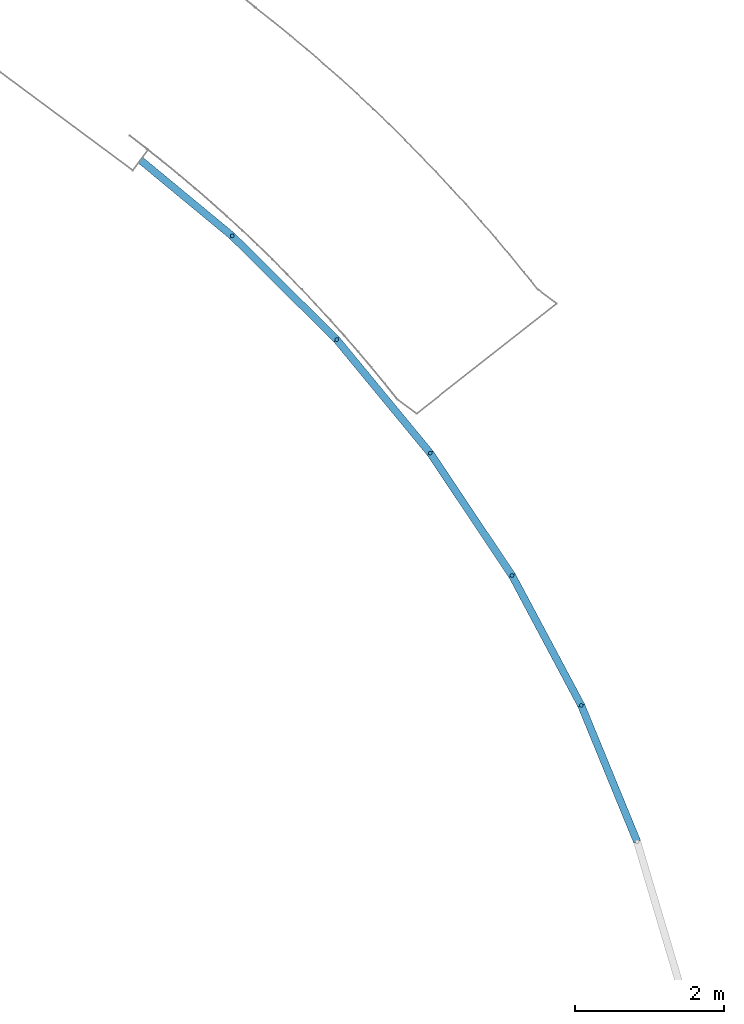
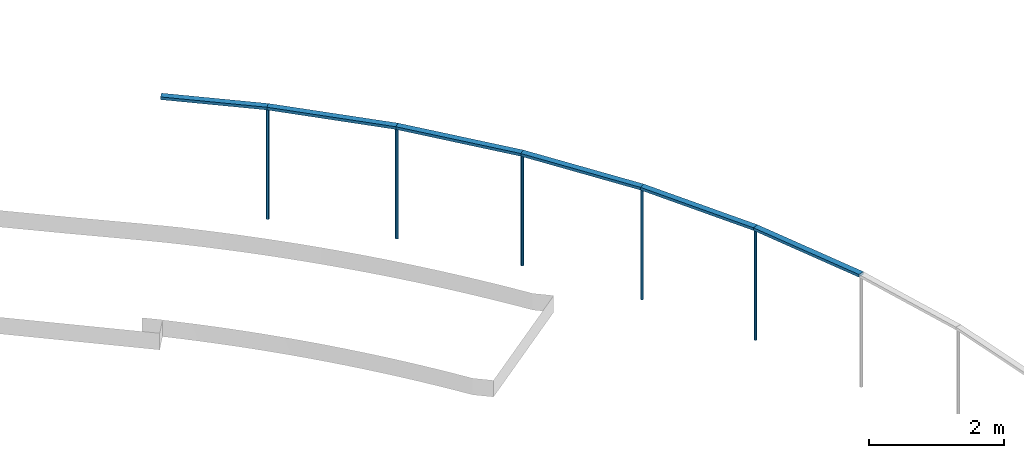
# One storey, part 15 of 33: 11 members, 1 element without a shape of its own.
"""IFC2X3 building model written with IfcOpenShell, lengths in metres."""

import ifcopenshell
import ifcopenshell.guid

model = None  # the IFC model being written
_history = None  # IfcOwnerHistory: only IFC2X3 demands one
_inside = {}  # id of a spatial element -> (the spatial element, [elements in it])
_under = {}  # id of a project, library or spatial element -> (it, [spatial elements below it])
_declared = {}  # id of a project -> (the project, [libraries it declares])
_typed = {}  # id of a type object -> (the type object, [elements of that type])
_made_of = {}  # id of a material, layer set ... -> (it, [elements and type objects made of it])


def new_model(schema):
    """Start an empty IFC model of exactly this schema.

    Asked for "IFC4X3", IfcOpenShell would pick the latest addendum, in which some entities
    have other attributes; the version numbers below select the first issue.
    IFC2X3 requires an IfcOwnerHistory on every rooted entity: one is made here for all.
    """
    global model, _history
    if schema == "IFC4X3":
        model = ifcopenshell.file(schema_version=(4, 3, 0, 0))
    else:
        model = ifcopenshell.file(schema=schema)
    _inside.clear()
    _under.clear()
    _declared.clear()
    _typed.clear()
    _made_of.clear()
    _history = None
    if model.schema == "IFC2X3":
        org = make("IfcOrganization", Name="unknown")
        user = make(
            "IfcPersonAndOrganization",
            ThePerson=make("IfcPerson", FamilyName="unknown"),
            TheOrganization=org,
        )
        app = make(
            "IfcApplication",
            ApplicationDeveloper=org,
            Version="unknown",
            ApplicationFullName="unknown",
            ApplicationIdentifier="unknown",
        )
        _history = make(
            "IfcOwnerHistory",
            OwningUser=user,
            OwningApplication=app,
            ChangeAction="ADDED",
            CreationDate=0,
        )
    return model


def make(cls, **values):
    """One entity of the class cls with the attributes given. An attribute that is None is left unset."""
    return model.create_entity(
        cls, **{name: value for name, value in values.items() if value is not None}
    )


def entity(cls, *values):
    """Any entity or typed value of the class cls, its attributes in the order of the schema. None: left unset."""
    e = model.create_entity(cls)
    for i, value in enumerate(values):
        if value is not None:
            e[i] = value
    return e


def rooted(cls, **values):
    """An entity with a GlobalId (a new one), such as an element, a storey or a relation."""
    return make(cls, GlobalId=ifcopenshell.guid.new(), OwnerHistory=_history, **values)


def si_unit(unit_type, name, prefix=None):
    """IfcSIUnit, for example si_unit("LENGTHUNIT", "METRE", prefix="MILLI")."""
    return make("IfcSIUnit", UnitType=unit_type, Prefix=prefix, Name=name)


def converted_unit(unit_type, name, factor, base, dimensions=None, offset=None):
    """IfcConversionBasedUnit, such as the inch: factor (a typed value) times the base unit."""
    return make(
        "IfcConversionBasedUnit"
        if offset is None
        else "IfcConversionBasedUnitWithOffset",
        ConversionOffset=offset,
        Dimensions=None
        if dimensions is None
        else entity("IfcDimensionalExponents", *dimensions),
        UnitType=unit_type,
        Name=name,
        ConversionFactor=make(
            "IfcMeasureWithUnit", ValueComponent=factor, UnitComponent=base
        ),
    )


def derived_unit(unit_type, elements):
    """IfcDerivedUnit: a product of units, each with its exponent."""
    return make(
        "IfcDerivedUnit",
        Elements=[
            make("IfcDerivedUnitElement", Unit=unit, Exponent=power)
            for unit, power in elements
        ],
        UnitType=unit_type,
    )


def assignment(units):
    """IfcUnitAssignment: the units of a project."""
    return None if units is None else make("IfcUnitAssignment", Units=units)


def point(xyz):
    """IfcCartesianPoint."""
    return None if xyz is None else make("IfcCartesianPoint", Coordinates=xyz)


def direction(xyz):
    """IfcDirection."""
    return None if xyz is None else make("IfcDirection", DirectionRatios=xyz)


def frame(location, z_axis=None, x_axis=None):
    """IfcAxis2Placement3D, a coordinate frame: its origin and axes. An axis left out is left unset."""
    return make(
        "IfcAxis2Placement3D",
        Location=point(location),
        Axis=direction(z_axis),
        RefDirection=direction(x_axis),
    )


def frame_2d(location, x_axis=None):
    """IfcAxis2Placement2D, a coordinate frame in the plane: its origin and x axis."""
    return make(
        "IfcAxis2Placement2D", Location=point(location), RefDirection=direction(x_axis)
    )


def origin():
    """The frame at (0, 0, 0) with its axes left unset."""
    return frame((0.0, 0.0, 0.0))


def origin_2d_with_axis():
    """The frame at (0, 0) in the plane with the x axis (1, 0) written out."""
    return frame_2d((0.0, 0.0), x_axis=(1.0, 0.0))


def place(relative_to, where):
    """IfcLocalPlacement: puts the frame where relative to a parent placement (None: the world)."""
    return make(
        "IfcLocalPlacement", PlacementRelTo=relative_to, RelativePlacement=where
    )


def context(
    kind, dimensions, precision=None, world=None, true_north=None, identifier=None
):
    """IfcGeometricRepresentationContext, for example the 3D "Model" context."""
    return make(
        "IfcGeometricRepresentationContext",
        ContextIdentifier=identifier,
        ContextType=kind,
        CoordinateSpaceDimension=dimensions,
        Precision=precision,
        WorldCoordinateSystem=world,
        TrueNorth=true_north,
    )


def subcontext(parent, identifier, kind, view, scale=None):
    """IfcGeometricRepresentationSubContext, for example "Body" below "Model"."""
    return make(
        "IfcGeometricRepresentationSubContext",
        ContextIdentifier=identifier,
        ContextType=kind,
        ParentContext=parent,
        TargetScale=scale,
        TargetView=view,
    )


def project(units=None, contexts=None):
    """IfcProject with its units and contexts."""
    return rooted(
        "IfcProject",
        Name="project",
        RepresentationContexts=contexts,
        UnitsInContext=assignment(units),
    )


def spatial(cls, under=None, at=None, **own):
    """A site, building, storey or space (cls), placed at a placement, below another one or the project."""
    s = rooted(cls, ObjectPlacement=at, **own)
    if under is not None:
        _under.setdefault(under.id(), (under, []))[1].append(s)
    return s


def profile(cls, at=None, kind="AREA", **sizes):
    """A parametric profile (cls). Its sizes go by their IFC names, for example OverallWidth=200.0."""
    return make(cls, ProfileType=kind, Position=at, **sizes)


def rectangle(**sizes):
    """IfcRectangleProfileDef."""
    return profile("IfcRectangleProfileDef", **sizes)


def circle(**sizes):
    """IfcCircleProfileDef."""
    return profile("IfcCircleProfileDef", **sizes)


def extrude(swept, where, along, depth):
    """IfcExtrudedAreaSolid: the profile swept, set in the frame where, extruded along a direction by depth."""
    return make(
        "IfcExtrudedAreaSolid",
        SweptArea=swept,
        Position=where,
        ExtrudedDirection=direction(along),
        Depth=depth,
    )


def clip(a, b, op="DIFFERENCE"):
    """IfcBooleanClippingResult: the solid a cut by the half space b."""
    return make(
        "IfcBooleanClippingResult", Operator=op, FirstOperand=a, SecondOperand=b
    )


def halfspace(plane, agree):
    """IfcHalfSpaceSolid: all space on one side of the plane z = 0 of the frame plane."""
    return make(
        "IfcHalfSpaceSolid",
        BaseSurface=make("IfcPlane", Position=plane),
        AgreementFlag=agree,
    )


def shape(context_of_items, identifier, shape_type, items):
    """IfcShapeRepresentation: the items that make up one representation, for example the "Body"."""
    return make(
        "IfcShapeRepresentation",
        ContextOfItems=context_of_items,
        RepresentationIdentifier=identifier,
        RepresentationType=shape_type,
        Items=items,
    )


def source(mapping_origin, context_of_items, identifier, shape_type, items):
    """IfcRepresentationMap: a shape defined once, which mapped items show again and again."""
    return make(
        "IfcRepresentationMap",
        MappingOrigin=mapping_origin,
        MappedRepresentation=shape(context_of_items, identifier, shape_type, items),
    )


def transform(
    local_origin,
    x_axis=None,
    y_axis=None,
    z_axis=None,
    scale=None,
    scale2=None,
    scale3=None,
    uniform=True,
):
    """IfcCartesianTransformationOperator3D, or its non-uniform kind. x_axis, y_axis, z_axis: its Axis1, 2, 3."""
    if uniform:
        return make(
            "IfcCartesianTransformationOperator3D",
            Axis1=direction(x_axis),
            Axis2=direction(y_axis),
            LocalOrigin=point(local_origin),
            Scale=scale,
            Axis3=direction(z_axis),
        )
    return make(
        "IfcCartesianTransformationOperator3DnonUniform",
        Axis1=direction(x_axis),
        Axis2=direction(y_axis),
        LocalOrigin=point(local_origin),
        Scale=scale,
        Axis3=direction(z_axis),
        Scale2=scale2,
        Scale3=scale3,
    )


def mapped(mapping_source, mapping_target):
    """IfcMappedItem: shows the shape of a source again, moved by a transform."""
    return make(
        "IfcMappedItem", MappingSource=mapping_source, MappingTarget=mapping_target
    )


def material(Name=None, Category=None):
    """IfcMaterial."""
    return make("IfcMaterial", Name=Name, Category=Category)


def made_of(thing, what):
    """Note that an element or type object is made of a material, layer set ...; save() writes the relation."""
    if what is not None:
        _made_of.setdefault(what.id(), (what, []))[1].append(thing)
    return thing


def type_object(cls, material=None, **own):
    """A type object (cls), such as IfcWallType, which elements share."""
    return made_of(rooted(cls, **own), material)


def type_shapes(of_type, sources):
    """Give a type object the sources (RepresentationMaps) that its elements show as mapped items."""
    of_type.RepresentationMaps = sources


def element(
    cls,
    number,
    at=None,
    inside=None,
    cuts=None,
    type_object=None,
    material=None,
    context=None,
    identifier="Body",
    shape_type=None,
    held_by="IfcProductDefinitionShape",
    body=None,
    shapes=None,
    **own,
):
    """One element of the class cls, such as IfcWall. Its Tag is "e" and its number.

    at: its placement. inside: the storey or other place that contains it. cuts: it is an
    opening in that element (IfcRelVoidsElement). A single representation is given by context,
    identifier, shape_type and body (its items); several are given by shapes. held_by: the class
    of the entity that holds the representations. save() writes the other relations.
    """
    e = rooted(cls, Tag="e%d" % number, ObjectPlacement=at, **own)
    if body is not None:
        shapes = [shape(context, identifier, shape_type, body)]
    if shapes is not None:
        e.Representation = make(held_by, Representations=shapes)
    if inside is not None:
        _inside.setdefault(inside.id(), (inside, []))[1].append(e)
    if cuts is not None:
        rooted(
            "IfcRelVoidsElement", RelatingBuildingElement=cuts, RelatedOpeningElement=e
        )
    if type_object is not None:
        _typed.setdefault(type_object.id(), (type_object, []))[1].append(e)
    return made_of(e, material)


def aggregate(whole, parts):
    """IfcRelAggregates: a whole, such as a stair, and the parts it consists of."""
    return rooted("IfcRelAggregates", RelatingObject=whole, RelatedObjects=parts)


def save(model, path):
    """Write the relations noted so far, then the file.

    IfcRelAggregates (storeys below a building ...), IfcRelContainedInSpatialStructure (elements
    in a storey), IfcRelDefinesByType, IfcRelAssociatesMaterial and IfcRelDeclares: one each for
    every whole, place, type object, material and project.
    """
    for whole, parts in _under.values():
        aggregate(whole, parts)
    for where, things in _inside.values():
        rooted(
            "IfcRelContainedInSpatialStructure",
            RelatedElements=things,
            RelatingStructure=where,
        )
    for kind, things in _typed.values():
        rooted("IfcRelDefinesByType", RelatedObjects=things, RelatingType=kind)
    for what, things in _made_of.values():
        rooted("IfcRelAssociatesMaterial", RelatedObjects=things, RelatingMaterial=what)
    for by, libraries in _declared.values():
        rooted("IfcRelDeclares", RelatingContext=by, RelatedDefinitions=libraries)
    model.write(path)


model = new_model("IFC2X3")

# Units and contexts
model_context = context("Model", 3, precision=1e-05, world=origin(), true_north=direction((6.123031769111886e-17, 1.0)))
body_context = subcontext(model_context, "Body", "Model", "MODEL_VIEW")
ifc_project = project(units=[si_unit("LENGTHUNIT", "METRE"), si_unit("AREAUNIT", "SQUARE_METRE"), si_unit("VOLUMEUNIT", "CUBIC_METRE"), converted_unit("PLANEANGLEUNIT", "DEGREE", entity("IfcRatioMeasure", 0.017453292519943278), si_unit("PLANEANGLEUNIT", "RADIAN"), dimensions=[0, 0, 0, 0, 0, 0, 0]), si_unit("MASSUNIT", "GRAM", prefix="KILO"), derived_unit("MASSDENSITYUNIT", [(si_unit("MASSUNIT", "GRAM", prefix="KILO"), 1), (si_unit("LENGTHUNIT", "METRE"), -3)]), derived_unit("IONCONCENTRATIONUNIT", [(si_unit("MASSUNIT", "GRAM", prefix="KILO"), 1), (si_unit("LENGTHUNIT", "METRE"), -3)]), derived_unit("MOMENTOFINERTIAUNIT", [(si_unit("LENGTHUNIT", "METRE"), 4)]), si_unit("TIMEUNIT", "SECOND"), si_unit("FREQUENCYUNIT", "HERTZ"), si_unit("THERMODYNAMICTEMPERATUREUNIT", "DEGREE_CELSIUS"), derived_unit("THERMALTRANSMITTANCEUNIT", [(si_unit("MASSUNIT", "GRAM", prefix="KILO"), 1), (si_unit("THERMODYNAMICTEMPERATUREUNIT", "KELVIN"), -1), (si_unit("TIMEUNIT", "SECOND"), -3)]), derived_unit("THERMALCONDUCTANCEUNIT", [(si_unit("MASSUNIT", "GRAM", prefix="KILO"), 1), (si_unit("THERMODYNAMICTEMPERATUREUNIT", "KELVIN"), -1), (si_unit("TIMEUNIT", "SECOND"), -3), (si_unit("LENGTHUNIT", "METRE"), 1)]), derived_unit("VOLUMETRICFLOWRATEUNIT", [(si_unit("LENGTHUNIT", "METRE"), 3), (si_unit("TIMEUNIT", "SECOND"), -1)]), derived_unit("MASSFLOWRATEUNIT", [(si_unit("MASSUNIT", "GRAM", prefix="KILO"), 1), (si_unit("TIMEUNIT", "SECOND"), -1)]), derived_unit("ROTATIONALFREQUENCYUNIT", [(si_unit("TIMEUNIT", "SECOND"), -1)]), si_unit("ELECTRICCURRENTUNIT", "AMPERE"), si_unit("ELECTRICVOLTAGEUNIT", "VOLT"), si_unit("POWERUNIT", "WATT"), si_unit("FORCEUNIT", "NEWTON", prefix="KILO"), si_unit("ILLUMINANCEUNIT", "LUX"), si_unit("LUMINOUSFLUXUNIT", "LUMEN"), si_unit("LUMINOUSINTENSITYUNIT", "CANDELA"), derived_unit("USERDEFINED", [(si_unit("MASSUNIT", "GRAM", prefix="KILO"), -1), (si_unit("LENGTHUNIT", "METRE"), -2), (si_unit("TIMEUNIT", "SECOND"), 3), (si_unit("LUMINOUSFLUXUNIT", "LUMEN"), 1)]), derived_unit("USERDEFINED", [(si_unit("MASSUNIT", "GRAM", prefix="KILO"), 1), (si_unit("TIMEUNIT", "SECOND"), -3), (si_unit("LENGTHUNIT", "METRE"), 3), (si_unit("ELECTRICCURRENTUNIT", "AMPERE"), -2)]), derived_unit("SOUNDPOWERUNIT", [(si_unit("MASSUNIT", "GRAM", prefix="KILO"), 1), (si_unit("TIMEUNIT", "SECOND"), -3), (si_unit("LENGTHUNIT", "METRE"), 2)]), derived_unit("SOUNDPRESSUREUNIT", [(si_unit("MASSUNIT", "GRAM", prefix="KILO"), 1), (si_unit("LENGTHUNIT", "METRE"), -1), (si_unit("TIMEUNIT", "SECOND"), -2)]), derived_unit("LINEARVELOCITYUNIT", [(si_unit("LENGTHUNIT", "METRE"), 1), (si_unit("TIMEUNIT", "SECOND"), -1)]), si_unit("PRESSUREUNIT", "PASCAL"), derived_unit("USERDEFINED", [(si_unit("MASSUNIT", "GRAM", prefix="KILO"), 1), (si_unit("LENGTHUNIT", "METRE"), -2), (si_unit("TIMEUNIT", "SECOND"), -2)]), derived_unit("LINEARFORCEUNIT", [(si_unit("MASSUNIT", "GRAM", prefix="KILO"), 1), (si_unit("TIMEUNIT", "SECOND"), -2)]), derived_unit("PLANARFORCEUNIT", [(si_unit("MASSUNIT", "GRAM", prefix="KILO"), 1), (si_unit("LENGTHUNIT", "METRE"), -1), (si_unit("TIMEUNIT", "SECOND"), -2)]), derived_unit("SPECIFICHEATCAPACITYUNIT", [(si_unit("THERMODYNAMICTEMPERATUREUNIT", "KELVIN"), -1), (si_unit("LENGTHUNIT", "METRE"), 2), (si_unit("TIMEUNIT", "SECOND"), -2)]), derived_unit("HEATINGVALUEUNIT", [(si_unit("LENGTHUNIT", "METRE"), 2), (si_unit("TIMEUNIT", "SECOND"), -2)]), derived_unit("VAPORPERMEABILITYUNIT", [(si_unit("LENGTHUNIT", "METRE"), -1), (si_unit("TIMEUNIT", "SECOND"), 1)]), derived_unit("DYNAMICVISCOSITYUNIT", [(si_unit("MASSUNIT", "GRAM", prefix="KILO"), 1), (si_unit("TIMEUNIT", "SECOND"), -1), (si_unit("LENGTHUNIT", "METRE"), -1)]), derived_unit("THERMALEXPANSIONCOEFFICIENTUNIT", [(si_unit("THERMODYNAMICTEMPERATUREUNIT", "KELVIN"), -1)]), derived_unit("MODULUSOFELASTICITYUNIT", [(si_unit("MASSUNIT", "GRAM", prefix="KILO"), 1), (si_unit("LENGTHUNIT", "METRE"), -1), (si_unit("TIMEUNIT", "SECOND"), -2)]), derived_unit("ISOTHERMALMOISTURECAPACITYUNIT", [(si_unit("LENGTHUNIT", "METRE"), 3), (si_unit("MASSUNIT", "GRAM", prefix="KILO"), -1)]), derived_unit("MOISTUREDIFFUSIVITYUNIT", [(si_unit("TIMEUNIT", "SECOND"), -1), (si_unit("LENGTHUNIT", "METRE"), 2)])], contexts=[model_context])

# Site, building, storey
site_placement = place(None, origin())
site = spatial("IfcSite", under=ifc_project, at=site_placement, Name="Superficie", CompositionType="ELEMENT")
building_placement = place(site_placement, frame((0.0, 0.0, 235.0), z_axis=(0.0, 0.0, 1.0), x_axis=(-0.7996477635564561, 0.6004693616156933, 0.0)))
building = spatial("IfcBuilding", under=site, at=building_placement, CompositionType="ELEMENT")
storey_placement = place(building_placement, origin())
storey = spatial("IfcBuildingStorey", under=building, at=storey_placement, Name="P0- Escola", CompositionType="ELEMENT", Elevation=0.0)

# Curtain wall, members
curtain_wall_type = type_object("IfcCurtainWallType", Name="Muro cortina:SER EXT- Tanca exterior", PredefinedType="NOTDEFINED")
curtain_wall_placement = place(storey_placement, origin())
curtain_wall = element("IfcCurtainWall", 1, at=curtain_wall_placement, inside=storey, type_object=curtain_wall_type, Name="Muro cortina:SER EXT- Tanca exterior", ObjectType="Muro cortina:SER EXT- Tanca exterior")
ifc_material_1 = material(Name="Acero inoxidable")
member_type_1 = type_object("IfcMemberType", Name="Montante circular:Perfil Tanca exterior", PredefinedType="MULLION", material=ifc_material_1)
shared_shape_1 = source(origin(), body_context, "Body", "SweptSolid", [
    extrude(circle(Radius=0.025, at=frame_2d((-2.1149748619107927e-18, -4.0388614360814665e-17), x_axis=(1.0, 0.0))), frame((0.0, 0.0, -2.0), z_axis=(0.0, 0.0, 1.0), x_axis=(-1.0, 0.0, 0.0)), (0.0, 0.0, 1.0), 1.9999999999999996),
])
type_shapes(member_type_1, [shared_shape_1])
member_1_placement = place(curtain_wall_placement, frame((-1.5163739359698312, -64.41033042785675, -5.509999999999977), z_axis=(0.0, 0.0, -1.0), x_axis=(-0.8835860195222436, 0.4682688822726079, 0.0)))
member_1 = element("IfcMember", 2, at=member_1_placement, type_object=member_type_1, material=ifc_material_1, Name="Montante circular:Perfil Tanca exterior", ObjectType="Montante circular:Perfil Tanca exterior", context=body_context, shape_type="MappedRepresentation", body=[
    mapped(shared_shape_1, transform((0.0, 0.0, 0.0), scale=1.0)),
])
member_2_placement = place(curtain_wall_placement, frame((0.2787957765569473, -65.24961452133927, -5.509999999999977), z_axis=(0.0, 0.0, -1.0), x_axis=(-0.9259206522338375, 0.3777180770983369, 0.0)))
member_2 = element("IfcMember", 3, at=member_2_placement, type_object=member_type_1, material=ifc_material_1, Name="Montante circular:Perfil Tanca exterior", ObjectType="Montante circular:Perfil Tanca exterior", context=body_context, shape_type="MappedRepresentation", body=[
    mapped(shared_shape_1, transform((0.0, 0.0, 0.0), scale=1.0)),
])
member_3_placement = place(curtain_wall_placement, frame((2.1487857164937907, -65.90548776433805, -5.509999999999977), z_axis=(0.0, 0.0, -1.0), x_axis=(-0.959003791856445, 0.28339323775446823, 0.0)))
member_3 = element("IfcMember", 4, at=member_3_placement, type_object=member_type_1, material=ifc_material_1, Name="Montante circular:Perfil Tanca exterior", ObjectType="Montante circular:Perfil Tanca exterior", context=body_context, shape_type="MappedRepresentation", body=[
    mapped(shared_shape_1, transform((0.0, 0.0, 0.0), scale=1.0)),
])
member_4_placement = place(curtain_wall_placement, frame((4.074911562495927, -66.37139688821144, -5.509999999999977), z_axis=(0.0, 0.0, -1.0), x_axis=(-0.9825048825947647, 0.1862368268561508, 0.0)))
member_4 = element("IfcMember", 5, at=member_4_placement, type_object=member_type_1, material=ifc_material_1, Name="Montante circular:Perfil Tanca exterior", ObjectType="Montante circular:Perfil Tanca exterior", context=body_context, shape_type="MappedRepresentation", body=[
    mapped(shared_shape_1, transform((0.0, 0.0, 0.0), scale=1.0)),
])
member_5_placement = place(curtain_wall_placement, frame((6.03792810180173, -66.64268668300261, -5.509999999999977), z_axis=(0.0, 0.0, -1.0), x_axis=(-0.9961891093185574, 0.08721959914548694, 0.0)))
member_5 = element("IfcMember", 6, at=member_5_placement, type_object=member_type_1, material=ifc_material_1, Name="Montante circular:Perfil Tanca exterior", ObjectType="Montante circular:Perfil Tanca exterior", context=body_context, shape_type="MappedRepresentation", body=[
    mapped(shared_shape_1, transform((0.0, 0.0, 0.0), scale=1.0)),
])
ifc_material_2 = material(Name="_Formigó- Solera- T1- STR")
member_type_2 = type_object("IfcMemberType", Name="Montante rectangular:Montante rectangular 100x50", PredefinedType="MULLION", material=ifc_material_2)
shared_shape_2 = source(origin(), body_context, "Body", "SweptSolid", [
    clip(clip(extrude(rectangle(XDim=0.1, YDim=0.05000000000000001, at=origin_2d_with_axis()), frame((-0.025000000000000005, 0.0, -1.984176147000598), z_axis=(0.0, 0.0, 1.0), x_axis=(0.0, -1.0, 0.0)), (0.0, 0.0, 1.0), 1.9866782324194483), halfspace(frame((-0.3048, 0.0, -1.9816740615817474), z_axis=(0.0, 0.04997916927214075, -0.9987502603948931), x_axis=(0.0, 0.9987502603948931, 0.04997916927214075)), False)), halfspace(frame((-0.3048, 0.0, 0.0), z_axis=(0.0, 0.049979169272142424, 0.998750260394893), x_axis=(0.0, 0.998750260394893, -0.049979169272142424)), False)),
])
type_shapes(member_type_2, [shared_shape_2])
member_6_placement = place(curtain_wall_placement, frame((-3.21878667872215, -63.39602133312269, -3.459999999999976), z_axis=(-0.85907807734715, 0.5118445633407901, 0.0), x_axis=(0.0, 0.0, 1.0)))
member_6 = element("IfcMember", 7, at=member_6_placement, type_object=member_type_2, material=ifc_material_2, Name="Montante rectangular:Montante rectangular 100x50", ObjectType="Montante rectangular:Montante rectangular 100x50", context=body_context, shape_type="MappedRepresentation", body=[
    mapped(shared_shape_2, transform((0.0, 0.0, 0.0), scale=1.0)),
])
member_7_placement = place(curtain_wall_placement, frame((-1.5163739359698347, -64.41033042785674, -3.459999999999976), z_axis=(-0.9058854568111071, 0.4235227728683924, 0.0), x_axis=(0.0, 0.0, 1.0)))
member_7 = element("IfcMember", 8, at=member_7_placement, type_object=member_type_2, material=ifc_material_2, Name="Montante rectangular:Montante rectangular 100x50", ObjectType="Montante rectangular:Montante rectangular 100x50", context=body_context, shape_type="MappedRepresentation", body=[
    mapped(shared_shape_2, transform((0.0, 0.0, 0.0), scale=1.0)),
])
member_8_placement = place(curtain_wall_placement, frame((0.2787957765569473, -65.24961452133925, -3.459999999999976), z_axis=(-0.9436415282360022, 0.33096928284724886, 0.0), x_axis=(0.0, 0.0, 1.0)))
member_8 = element("IfcMember", 9, at=member_8_placement, type_object=member_type_2, material=ifc_material_2, Name="Montante rectangular:Montante rectangular 100x50", ObjectType="Montante rectangular:Montante rectangular 100x50", context=body_context, shape_type="MappedRepresentation", body=[
    mapped(shared_shape_2, transform((0.0, 0.0, 0.0), scale=1.0)),
])
member_9_placement = place(curtain_wall_placement, frame((2.1487857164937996, -65.90548776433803, -3.459999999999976), z_axis=(-0.9719690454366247, 0.23510885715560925, 0.0), x_axis=(0.0, 0.0, 1.0)))
member_9 = element("IfcMember", 10, at=member_9_placement, type_object=member_type_2, material=ifc_material_2, Name="Montante rectangular:Montante rectangular 100x50", ObjectType="Montante rectangular:Montante rectangular 100x50", context=body_context, shape_type="MappedRepresentation", body=[
    mapped(shared_shape_2, transform((0.0, 0.0, 0.0), scale=1.0)),
])
member_type_3 = type_object("IfcMemberType", Name="Montante rectangular:Montante rectangular 100x50", PredefinedType="MULLION", material=ifc_material_2)
shared_shape_3 = source(origin(), body_context, "Body", "SweptSolid", [
    clip(clip(extrude(rectangle(XDim=0.1, YDim=0.05000000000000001, at=origin_2d_with_axis()), frame((-0.025000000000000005, 0.0, -1.9839362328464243), z_axis=(0.0, 0.0, 1.0), x_axis=(0.0, -1.0, 0.0)), (0.0, 0.0, 1.0), 1.9864383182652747), halfspace(frame((-0.3048, 0.0, -1.9816740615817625), z_axis=(0.0, 0.04519719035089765, -0.9989780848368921), x_axis=(0.0, 0.9989780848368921, 0.04519719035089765)), False)), halfspace(frame((-0.3048, 0.0, 0.0), z_axis=(0.0, 0.04997916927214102, 0.998750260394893), x_axis=(0.0, 0.998750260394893, -0.04997916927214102)), False)),
])
type_shapes(member_type_3, [shared_shape_3])
member_10_placement = place(curtain_wall_placement, frame((4.074911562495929, -66.37139688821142, -3.459999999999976), z_axis=(-0.990584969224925, 0.1368993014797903, 0.0), x_axis=(0.0, 0.0, 1.0)))
member_10 = element("IfcMember", 11, at=member_10_placement, type_object=member_type_3, material=ifc_material_2, Name="Montante rectangular:Montante rectangular 100x50", ObjectType="Montante rectangular:Montante rectangular 100x50", context=body_context, shape_type="MappedRepresentation", body=[
    mapped(shared_shape_3, transform((0.0, 0.0, 0.0), scale=1.0)),
])
member_type_4 = type_object("IfcMemberType", Name="Montante rectangular:Montante rectangular 100x50", PredefinedType="MULLION", material=ifc_material_2)
shared_shape_4 = source(origin(), body_context, "Body", "SweptSolid", [
    clip(clip(extrude(rectangle(XDim=0.1, YDim=0.05000000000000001, at=frame_2d((-3.469446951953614e-18, 0.0), x_axis=(1.0, 0.0))), frame((-0.025000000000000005, 0.0, -1.603711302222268), z_axis=(0.0, 0.0, 1.0), x_axis=(0.0, -1.0, 0.0)), (0.0, 0.0, 1.0), 1.60597347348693), halfspace(frame((-0.3048000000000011, 0.0, -1.602422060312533), z_axis=(0.0, 0.025776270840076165, -0.9996677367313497), x_axis=(0.0, 0.9996677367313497, 0.025776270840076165)), False)), halfspace(frame((-0.3048, 0.0, 0.0), z_axis=(0.0, 0.04519719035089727, 0.9989780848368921), x_axis=(0.0, 0.9989780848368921, -0.04519719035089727)), False)),
])
type_shapes(member_type_4, [shared_shape_4])
member_11_placement = place(curtain_wall_placement, frame((6.0379281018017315, -66.6426866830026, -3.459999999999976), z_axis=(-0.9989001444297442, 0.046888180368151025, 0.0), x_axis=(0.0, 0.0, 1.0)))
member_11 = element("IfcMember", 12, at=member_11_placement, type_object=member_type_4, material=ifc_material_2, Name="Montante rectangular:Montante rectangular 100x50", ObjectType="Montante rectangular:Montante rectangular 100x50", context=body_context, shape_type="MappedRepresentation", body=[
    mapped(shared_shape_4, transform((0.0, 0.0, 0.0), scale=1.0)),
])
aggregate(curtain_wall, [member_1, member_2, member_3, member_4, member_5, member_6, member_7, member_8, member_9, member_10, member_11])

save(model, "model.ifc")
